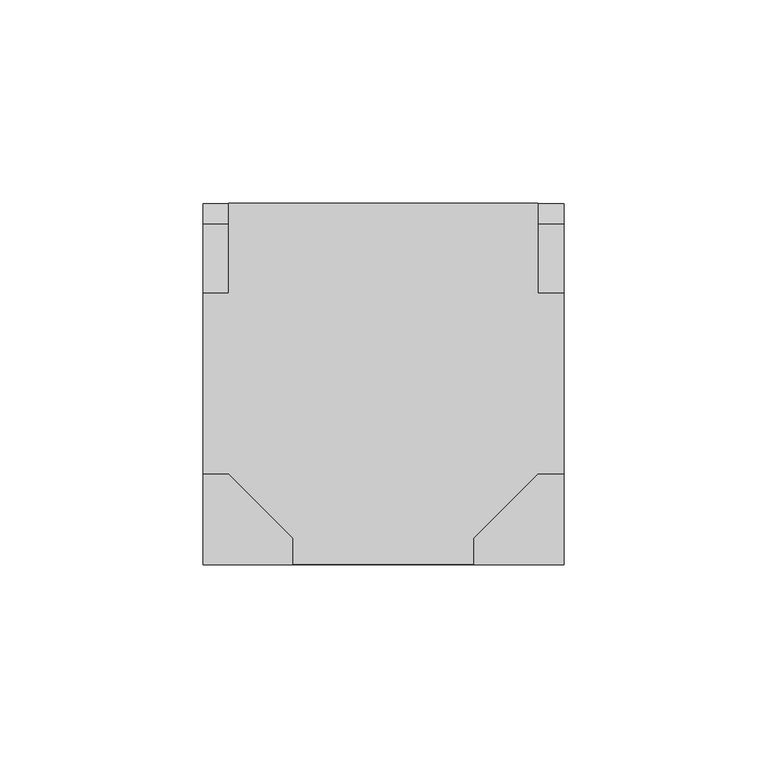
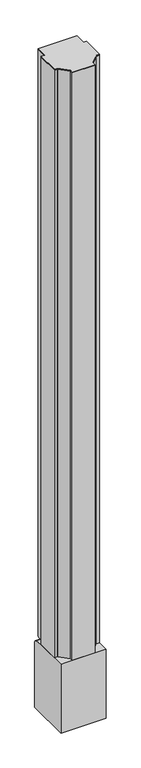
"""IFC4 building model written with IfcOpenShell, lengths in millimetres: furniture geometry."""

from ifc_helpers import new_model, si_unit, point, frame, frame_2d, origin, place, context, project, spatial, polyline, circle_curve, trimmed, segment, composite_curve, outline, extrude, source, transform, mapped, element, save
from ifc_brep_helpers import plane_surface, cylinder_surface, advanced_brep


def furniture_624f4475(model_context):
    return source(origin(), model_context, "Body", "SolidModel", [
        advanced_brep(
        [(-12.6999949, 52.6152101, 1370.0125), (63.5000049, 52.6152101, 1370.0125), (63.5000049, 52.6152101, 158.369), (-12.6999949, 52.6152101, 158.369), (63.5000049, -14.059796, 1370.0125), (63.5000049, -14.059796, 152.4), (63.5000049, 39.9152101, 152.4), (63.5000049, 46.6462101, 152.4), (-12.6999949, -14.0597907, 1370.0125), (-12.6999949, 46.6462101, 152.4), (-12.6999949, 39.9152101, 152.4), (-12.6999949, -14.0597907, 152.4), (3.1750011, -29.9347867, 1370.0125), (3.1750011, -29.9347867, 152.4), (47.6250142, -29.9347867, 1370.0125), (47.6250142, -29.9347867, 152.4)],
        [
            (0, 1),
            (1, 2),
            (2, 3),
            (3, 0),
            (1, 4),
            (4, 5),
            (5, 6),
            (6, 7),
            (7, 2, circle_curve(frame((63.5000049, 46.6462101, 158.369), z_axis=(1.0, 0.0, 0.0), x_axis=(0.0, -1.0, 0.0)), 5.969)),
            (8, 0),
            (3, 9, circle_curve(frame((-12.6999949, 46.6462101, 158.369), z_axis=(-1.0, 0.0, 0.0), x_axis=(0.0, -1.0, 0.0)), 5.969)),
            (9, 10),
            (10, 11),
            (11, 8),
            (12, 8),
            (11, 13),
            (13, 12),
            (14, 12),
            (13, 15),
            (15, 14),
            (4, 14),
            (15, 5),
            (9, 7),
        ],
        [
            plane_surface(frame((63.5000049, 52.6152101, 1370.0125), z_axis=(0.0, 1.0, 0.0), x_axis=(0.0, 0.0, -1.0))),
            plane_surface(frame((63.5000049, -14.059796, 1370.0125), z_axis=(1.0, 0.0, 0.0), x_axis=(0.0, 0.0, -1.0))),
            plane_surface(frame((-12.6999949, 52.6152101, 1370.0125), z_axis=(-1.0, 0.0, 0.0), x_axis=(0.0, 0.0, -1.0))),
            plane_surface(frame((-12.6999949, -14.0597907, 1370.0125), z_axis=(-0.7071067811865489, -0.7071067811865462, 0.0), x_axis=(0.0, 0.0, -1.0))),
            plane_surface(frame((3.1750011, -29.9347867, 1370.0125), z_axis=(0.0, -1.0, 0.0), x_axis=(0.0, 0.0, -1.0))),
            plane_surface(frame((47.6250142, -29.9347867, 1370.0125), z_axis=(0.7071067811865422, -0.7071067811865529, 0.0), x_axis=(0.0, 0.0, -1.0))),
            plane_surface(frame((-12.6999949, 52.6152101, 1370.0125), z_axis=(0.0, 0.0, 1.0), x_axis=(-1.0, 0.0, 0.0))),
            plane_surface(frame((-12.6999949, 52.6152101, 152.4), z_axis=(0.0, 0.0, -1.0), x_axis=(1.0, 0.0, 0.0))),
            cylinder_surface(frame((69.8500019, 46.6462101, 158.369), z_axis=(-1.0, 0.0, 0.0), x_axis=(0.0, -1.0, 0.0)), 5.969),
        ],
        [
            (0, [[1, 2, 3, 4]]),
            (1, [[5, 6, 7, 8, 9, -2]]),
            (2, [[10, -4, 11, 12, 13, 14]]),
            (3, [[15, -14, 16, 17]]),
            (4, [[18, -17, 19, 20]]),
            (5, [[21, -20, 22, -6]]),
            (6, [[-1, -10, -15, -18, -21, -5]]),
            (7, [[-22, -19, -16, -13, -12, 23, -8, -7]]),
            (8, [[-23, -11, -3, -9]]),
        ],
    ),
        extrude(outline(polyline([(3.1750011, -36.2847899), (3.1750011, -14.059793), (-19.0499981, -14.059793), (-19.0499981, 30.3902131), (69.8500019, 30.3902131), (69.8500019, -14.059793), (47.6250049, -14.059793), (47.6250049, -36.2847899), (3.1750011, -36.2847899)])), frame((0.0, 0.0, 152.4), z_axis=(0.0, 0.0, 1.0), x_axis=(1.0, 0.0, 0.0)), (0.0, 0.0, 1.0), 1217.6125),
        extrude(outline(polyline([(47.6250049, -29.934796), (47.6250049, -36.2847899), (3.1750011, -36.2847899), (3.1750011, -29.9347867), (-12.6999926, -14.059793), (-19.0499981, -14.059793), (-19.0499981, 30.3902131), (-12.6999949, 30.3902131), (-12.6999949, 52.6152101), (63.5000049, 52.6152101), (63.5000049, 30.3902131), (69.8500019, 30.3902131), (69.8500019, -14.059793), (63.5000079, -14.059793), (47.6250049, -29.934796)])), frame((0.0, 0.0, 1370.0125), z_axis=(0.0, 0.0, 1.0), x_axis=(1.0, 0.0, 0.0)), (0.0, 0.0, 1.0), 1.5875),
        extrude(outline(composite_curve([segment(polyline([(-36.2847899, 152.4), (30.3969018, 152.4), (47.5941997, 149.9432432)]), True, "CONTINUOUS"), segment(trimmed(circle_curve(frame_2d((46.7708881, 144.1572033)), 5.844322), [point((47.5941997, 149.9432432))], [point((52.6152101, 144.1572033))], False, "CARTESIAN"), True, "CONTINUOUS"), segment(polyline([(52.6152101, 144.1572033), (52.6152101, 9.525), (-36.2847899, 9.525), (-36.2847899, 152.4)]), True, "CONTINUOUS")], self_intersect=False)), frame((-19.0499981, 0.0, 0.0), z_axis=(1.0, 0.0, 0.0), x_axis=(0.0, 1.0, 0.0)), (0.0, 0.0, 1.0), 88.9),
    ])


if __name__ == "__main__":
    model = new_model("IFC4")
    model_context = context("Model", 3, world=origin())
    ifc_project = project(units=[si_unit("LENGTHUNIT", "METRE", prefix="MILLI")], contexts=[model_context])
    site = spatial("IfcSite", under=ifc_project)
    building = spatial("IfcBuilding", under=site)
    placement = place(None, origin())
    furniture_shape = furniture_624f4475(model_context)
    element("IfcFurniture", 1, ObjectType="HermanMiller_Ethospace_E1220_90DegreeConnector : Vnyl 54\"H 3-Way-N", at=placement, inside=building, context=model_context, shape_type="MappedRepresentation", body=[
        mapped(furniture_shape, transform((0.0, 0.0, 0.0), x_axis=(1.0, 0.0, 0.0), y_axis=(0.0, 1.0, 0.0), z_axis=(0.0, 0.0, 1.0))),
    ])
    save(model, "model.ifc")
